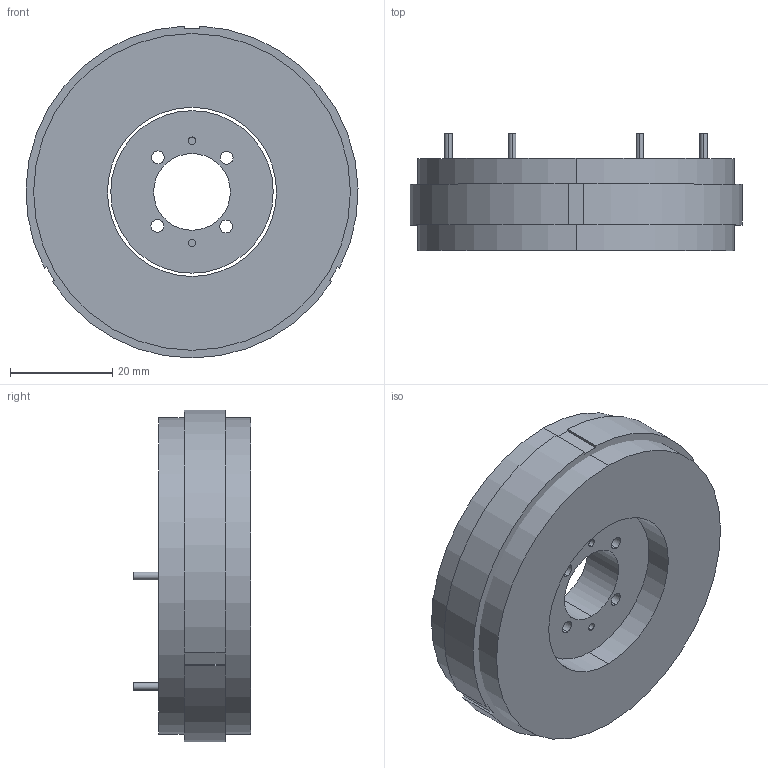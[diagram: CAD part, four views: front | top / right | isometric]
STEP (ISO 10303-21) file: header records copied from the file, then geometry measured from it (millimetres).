
FILE_DESCRIPTION (( 'STEP AP203' ), '1' );
FILE_NAME ('TMX65-17 KIT 3D.STEP', '2021-06-08T00:36:05', ( '' ), ( '' ), 'SwSTEP 2.0', 'SolidWorks 2021', '' );
FILE_SCHEMA (( 'CONFIG_CONTROL_DESIGN' ));
Length unit declared in the file: millimetre
Products named in the file (1): TMX65-17 KIT 3D
Bounding box: 64.98 x 23 x 64.96 mm (x, y, z)
Volume: 48790.3 mm3; surface area: 16943.1 mm2
Topology: 3 solids, 3 shells, 106 faces, 276 edges, 184 vertices
Faces by surface type: cylinder 71, plane 35
Entity records: 3423 total; most frequent: DIRECTION 632, CARTESIAN_POINT 567, ORIENTED_EDGE 552, EDGE_CURVE 276, AXIS2_PLACEMENT_3D 249, VERTEX_POINT 184, CIRCLE 142, VECTOR 134
